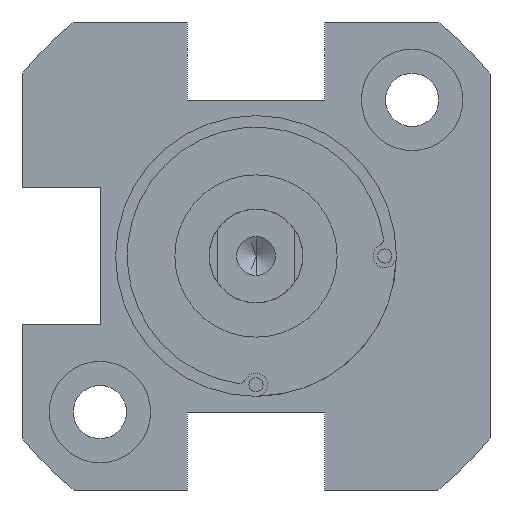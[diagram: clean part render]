
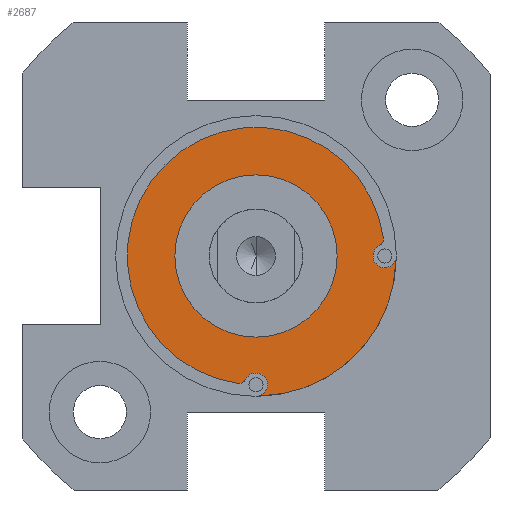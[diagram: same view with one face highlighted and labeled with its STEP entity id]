
A CAD part, front view. The second image highlights one B-rep face of the part: STEP entity #2687.
In plain terms, the highlighted planar face has unit normal (0, -1, 0).
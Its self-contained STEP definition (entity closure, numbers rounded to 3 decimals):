
#20 = DIRECTION ( 'NONE',  ( 0., 1., 0. ) ) ;
#47 = EDGE_CURVE ( 'NONE', #71, #1963, #1669, .T. ) ;
#70 = DIRECTION ( 'NONE',  ( 0., 0., -1. ) ) ;
#71 = VERTEX_POINT ( 'NONE', #2329 ) ;
#72 = CARTESIAN_POINT ( 'NONE',  ( 0., -36.5, -8.25 ) ) ;
#78 = EDGE_CURVE ( 'NONE', #1249, #1753, #1594, .T. ) ;
#99 = AXIS2_PLACEMENT_3D ( 'NONE', #1347, #2352, #1115 ) ;
#152 = CIRCLE ( 'NONE', #2824, 0.75 ) ;
#191 = CARTESIAN_POINT ( 'NONE',  ( 0., -36.5, 0. ) ) ;
#248 = CIRCLE ( 'NONE', #411, 0.5 ) ;
#257 = CARTESIAN_POINT ( 'NONE',  ( 0., -36.5, -9. ) ) ;
#284 = AXIS2_PLACEMENT_3D ( 'NONE', #1848, #2652, #2101 ) ;
#356 = CIRCLE ( 'NONE', #1967, 8.25 ) ;
#411 = AXIS2_PLACEMENT_3D ( 'NONE', #2715, #1159, #2944 ) ;
#428 = CARTESIAN_POINT ( 'NONE',  ( 0., -36.5, 5.2 ) ) ;
#514 = FACE_BOUND ( 'NONE', #1870, .T. ) ;
#563 = ORIENTED_EDGE ( 'NONE', *, *, #47, .T. ) ;
#565 = CARTESIAN_POINT ( 'NONE',  ( 0., -36.5, 0. ) ) ;
#583 = DIRECTION ( 'NONE',  ( 0., 0., 1. ) ) ;
#604 = AXIS2_PLACEMENT_3D ( 'NONE', #2410, #1403, #2196 ) ;
#627 = EDGE_LOOP ( 'NONE', ( #1936, #975, #563, #2154, #1019, #2396, #3038, #768 ) ) ;
#753 = EDGE_CURVE ( 'NONE', #1617, #944, #152, .T. ) ;
#768 = ORIENTED_EDGE ( 'NONE', *, *, #2522, .F. ) ;
#874 = AXIS2_PLACEMENT_3D ( 'NONE', #565, #2124, #3102 ) ;
#944 = VERTEX_POINT ( 'NONE', #2401 ) ;
#975 = ORIENTED_EDGE ( 'NONE', *, *, #1057, .T. ) ;
#987 = AXIS2_PLACEMENT_3D ( 'NONE', #3071, #1039, #70 ) ;
#1019 = ORIENTED_EDGE ( 'NONE', *, *, #2580, .T. ) ;
#1039 = DIRECTION ( 'NONE',  ( 0., -1., 0. ) ) ;
#1057 = EDGE_CURVE ( 'NONE', #944, #71, #1950, .T. ) ;
#1115 = DIRECTION ( 'NONE',  ( 0., 0., -1. ) ) ;
#1126 = EDGE_CURVE ( 'NONE', #1753, #1249, #2981, .T. ) ;
#1157 = VERTEX_POINT ( 'NONE', #1710 ) ;
#1159 = DIRECTION ( 'NONE',  ( 0., -1., 0. ) ) ;
#1249 = VERTEX_POINT ( 'NONE', #2525 ) ;
#1347 = CARTESIAN_POINT ( 'NONE',  ( -1.108, -36.5, -7.67 ) ) ;
#1403 = DIRECTION ( 'NONE',  ( 0., 1., 0. ) ) ;
#1450 = DIRECTION ( 'NONE',  ( 0., 0., 1. ) ) ;
#1594 = CIRCLE ( 'NONE', #874, 5.2 ) ;
#1617 = VERTEX_POINT ( 'NONE', #1911 ) ;
#1669 = CIRCLE ( 'NONE', #987, 0.5 ) ;
#1710 = CARTESIAN_POINT ( 'NONE',  ( -0.665, -36.5, -7.902 ) ) ;
#1714 = CIRCLE ( 'NONE', #99, 0.5 ) ;
#1753 = VERTEX_POINT ( 'NONE', #428 ) ;
#1758 = CARTESIAN_POINT ( 'NONE',  ( -1.108, -36.5, -8.17 ) ) ;
#1832 = VERTEX_POINT ( 'NONE', #1758 ) ;
#1848 = CARTESIAN_POINT ( 'NONE',  ( 0., -36.5, 0. ) ) ;
#1870 = EDGE_LOOP ( 'NONE', ( #1882, #2076 ) ) ;
#1882 = ORIENTED_EDGE ( 'NONE', *, *, #78, .T. ) ;
#1911 = CARTESIAN_POINT ( 'NONE',  ( 9., -36.5, 0. ) ) ;
#1918 = DIRECTION ( 'NONE',  ( 0., 1., 0. ) ) ;
#1932 = DIRECTION ( 'NONE',  ( 0., -1., 0. ) ) ;
#1936 = ORIENTED_EDGE ( 'NONE', *, *, #753, .T. ) ;
#1950 = CIRCLE ( 'NONE', #2468, 0.75 ) ;
#1963 = VERTEX_POINT ( 'NONE', #2530 ) ;
#1967 = AXIS2_PLACEMENT_3D ( 'NONE', #191, #2250, #3258 ) ;
#2021 = EDGE_CURVE ( 'NONE', #1157, #2300, #3061, .T. ) ;
#2076 = ORIENTED_EDGE ( 'NONE', *, *, #1126, .T. ) ;
#2101 = DIRECTION ( 'NONE',  ( 0., 0., 1. ) ) ;
#2124 = DIRECTION ( 'NONE',  ( 0., 1., 0. ) ) ;
#2154 = ORIENTED_EDGE ( 'NONE', *, *, #2815, .F. ) ;
#2166 = CARTESIAN_POINT ( 'NONE',  ( 8.25, -36.5, 0. ) ) ;
#2176 = DIRECTION ( 'NONE',  ( 0., 0., 1. ) ) ;
#2196 = DIRECTION ( 'NONE',  ( 0., 0., 1. ) ) ;
#2250 = DIRECTION ( 'NONE',  ( 0., 1., 0. ) ) ;
#2256 = AXIS2_PLACEMENT_3D ( 'NONE', #72, #2343, #583 ) ;
#2259 = CARTESIAN_POINT ( 'NONE',  ( -1.179, -36.5, -8.165 ) ) ;
#2300 = VERTEX_POINT ( 'NONE', #257 ) ;
#2329 = CARTESIAN_POINT ( 'NONE',  ( 7.902, -36.5, 0.665 ) ) ;
#2343 = DIRECTION ( 'NONE',  ( 0., 1., 0. ) ) ;
#2352 = DIRECTION ( 'NONE',  ( 0., -1., 0. ) ) ;
#2396 = ORIENTED_EDGE ( 'NONE', *, *, #3254, .T. ) ;
#2401 = CARTESIAN_POINT ( 'NONE',  ( 8.25, -36.5, -0.75 ) ) ;
#2402 = PLANE ( 'NONE',  #3039 ) ;
#2410 = CARTESIAN_POINT ( 'NONE',  ( 0., -36.5, 0. ) ) ;
#2468 = AXIS2_PLACEMENT_3D ( 'NONE', #2166, #1918, #2176 ) ;
#2507 = DIRECTION ( 'NONE',  ( 0., 0., 1. ) ) ;
#2522 = EDGE_CURVE ( 'NONE', #1617, #2300, #2584, .T. ) ;
#2525 = CARTESIAN_POINT ( 'NONE',  ( 0., -36.5, -5.2 ) ) ;
#2530 = CARTESIAN_POINT ( 'NONE',  ( 8.165, -36.5, 1.179 ) ) ;
#2580 = EDGE_CURVE ( 'NONE', #2994, #1832, #1714, .T. ) ;
#2584 = CIRCLE ( 'NONE', #284, 9. ) ;
#2652 = DIRECTION ( 'NONE',  ( 0., 1., 0. ) ) ;
#2687 = ADVANCED_FACE ( 'NONE', ( #3178, #514 ), #2402, .T. ) ;
#2691 = CARTESIAN_POINT ( 'NONE',  ( 0., -36.5, 0. ) ) ;
#2715 = CARTESIAN_POINT ( 'NONE',  ( -1.108, -36.5, -7.67 ) ) ;
#2782 = CARTESIAN_POINT ( 'NONE',  ( 8.25, -36.5, 0. ) ) ;
#2815 = EDGE_CURVE ( 'NONE', #2994, #1963, #356, .T. ) ;
#2824 = AXIS2_PLACEMENT_3D ( 'NONE', #2782, #20, #2507 ) ;
#2944 = DIRECTION ( 'NONE',  ( 0., 0., -1. ) ) ;
#2981 = CIRCLE ( 'NONE', #604, 5.2 ) ;
#2994 = VERTEX_POINT ( 'NONE', #2259 ) ;
#3038 = ORIENTED_EDGE ( 'NONE', *, *, #2021, .T. ) ;
#3039 = AXIS2_PLACEMENT_3D ( 'NONE', #2691, #1932, #1450 ) ;
#3061 = CIRCLE ( 'NONE', #2256, 0.75 ) ;
#3071 = CARTESIAN_POINT ( 'NONE',  ( 7.67, -36.5, 1.108 ) ) ;
#3102 = DIRECTION ( 'NONE',  ( 0., 0., 1. ) ) ;
#3178 = FACE_OUTER_BOUND ( 'NONE', #627, .T. ) ;
#3254 = EDGE_CURVE ( 'NONE', #1832, #1157, #248, .T. ) ;
#3258 = DIRECTION ( 'NONE',  ( 0., 0., 1. ) ) ;
